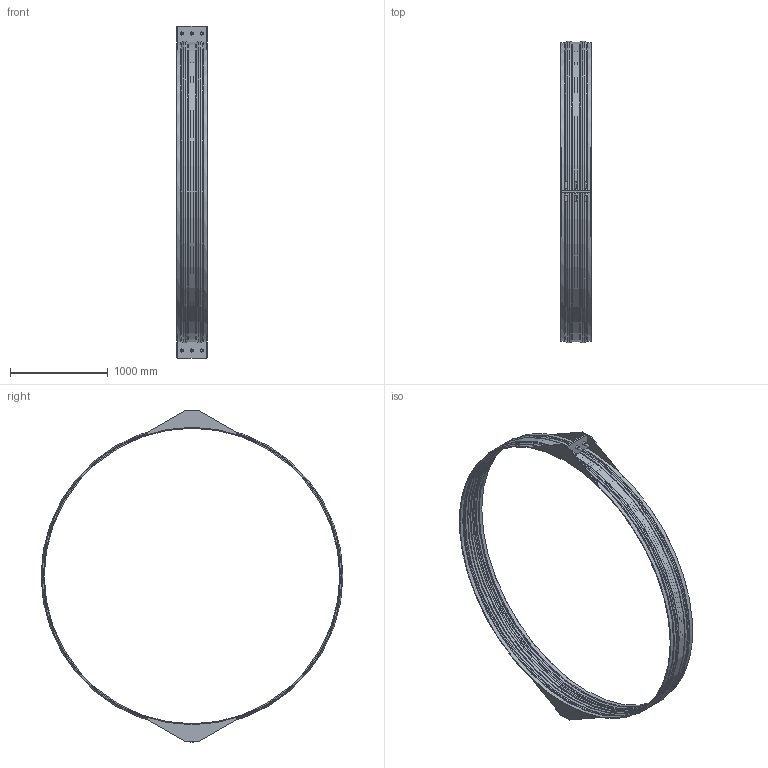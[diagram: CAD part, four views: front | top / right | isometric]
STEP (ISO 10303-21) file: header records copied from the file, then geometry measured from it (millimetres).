
FILE_DESCRIPTION(/* description */ ('VIC RESTRAINED COUPLING STYLE 233 (FLEX) (BRD)','CAx-IF Rec.Pracs.---Representation and Presentation of Product Manufacturing Information (PMI)---4.0---2014-10-13'),/* implementation_level */ '2;1');
FILE_NAME(/* name */ 'C:\Users\Vjadhav\Desktop\CAD for Inventor\Test for STEP\Vivek\Adsk_Inventor_Bolted Sleeve_iParts\STEP\Victaulic_VBSP_Coupling Flexible Restrained_Style 233 (BRD)\Victaulic_VBSP_Coupling Flexible Restrained_Style 233 (BRD)_75psi_120 (3000).stp',/* time_stamp */ '2020-09-24T12:32:03+05:00',/* author */ ('Vjadhav'),/* organization */ ('Victaulic'),/* preprocessor_version */ 'ST-DEVELOPER v17.2',/* originating_system */ 'Autodesk Inventor 2019',/* authorisation */ '');
FILE_SCHEMA (('AP242_MANAGED_MODEL_BASED_3D_ENGINEERING_MIM_LF { 1 0 10303 442 1 1 4 }'));
Length unit declared in the file: inch
Products named in the file (1): Style_233_Type_2_75psi-120.0
Bounding box: 317.5 x 3093.74 x 3403.6 mm (x, y, z)
Volume: 37783004.1 mm3; surface area: 7629887.7 mm2
Topology: 1 solids, 1 shells, 203 faces, 541 edges, 366 vertices
Faces by surface type: plane 134, cylinder 39, torus 18, cone 12
Full cylindrical faces by diameter (mm): 22.225 x12, 3028.95 x1, 3048 x2, 3054.35 x2
Entity records: 6848 total; most frequent: CARTESIAN_POINT 1320, DIRECTION 1095, ORIENTED_EDGE 1082, EDGE_CURVE 541, LINE 373, VECTOR 373, VERTEX_POINT 366, AXIS2_PLACEMENT_3D 361
